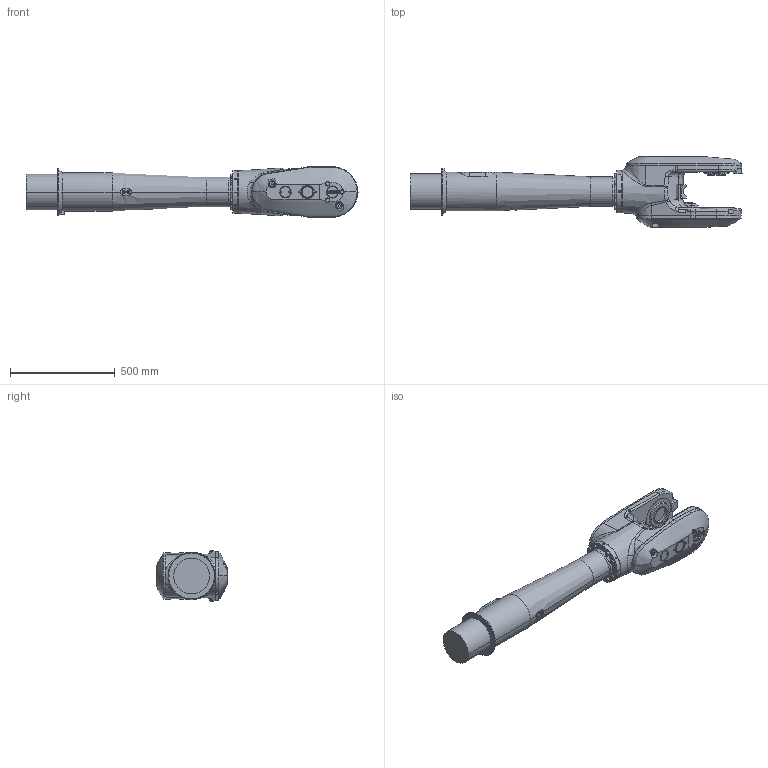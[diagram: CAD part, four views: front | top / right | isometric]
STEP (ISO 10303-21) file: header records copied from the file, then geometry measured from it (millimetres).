
FILE_DESCRIPTION (( 'STEP AP214' ), '1' );
FILE_NAME ('IRB5720-MH3_125kg-300_OmniCore_rev00_LINK04_CAD.step', '2025-07-08T11:14:17', ( '' ), ( '' ), 'SwSTEP 2.0', 'SolidWorks 2024', '' );
FILE_SCHEMA (( 'AUTOMOTIVE_DESIGN' ));
Length unit declared in the file: millimetre
Products named in the file (1): IRB5720-MH3_125kg-300_OmniCore_rev00_LINK04_CAD
Bounding box: 1582.45 x 337 x 241.31 mm (x, y, z)
Volume: 46599275.2 mm3; surface area: 1280996.7 mm2
Topology: 1 solids, 1 shells, 736 faces, 1855 edges, 1180 vertices
Faces by surface type: plane 358, cylinder 184, cone 114, bspline 57, torus 23
Entity records: 39625 total; most frequent: CARTESIAN_POINT 21366, ORIENTED_EDGE 3662, DIRECTION 3171, EDGE_CURVE 1831, VERTEX_POINT 1180, AXIS2_PLACEMENT_3D 1110, VECTOR 951, LINE 951
